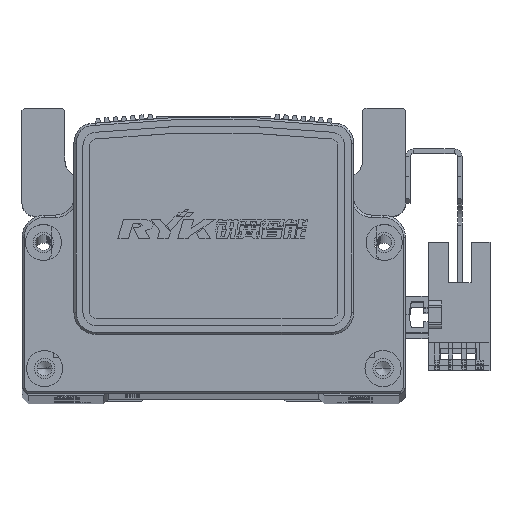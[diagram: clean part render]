
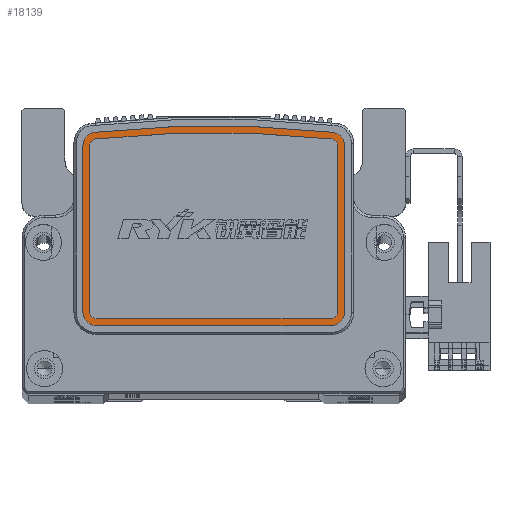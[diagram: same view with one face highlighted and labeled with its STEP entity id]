
A CAD part, top view. The second image highlights one B-rep face of the part: STEP entity #18139.
In plain terms, the highlighted planar face has unit normal (0, 0, 1) as drawn and (1, 0, 0) by its records, which use the part's own axes.
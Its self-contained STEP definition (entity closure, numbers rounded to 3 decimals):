
#6820 = VERTEX_POINT ( 'NONE', #35125 ) ;
#6830 = VERTEX_POINT ( 'NONE', #39582 ) ;
#6857 = VERTEX_POINT ( 'NONE', #28242 ) ;
#6872 = VERTEX_POINT ( 'NONE', #28308 ) ;
#6880 = VERTEX_POINT ( 'NONE', #28374 ) ;
#6882 = VERTEX_POINT ( 'NONE', #28388 ) ;
#6899 = VERTEX_POINT ( 'NONE', #28401 ) ;
#6924 = VERTEX_POINT ( 'NONE', #28536 ) ;
#6926 = VERTEX_POINT ( 'NONE', #28506 ) ;
#6943 = VERTEX_POINT ( 'NONE', #28542 ) ;
#6949 = DIRECTION ( 'NONE',  ( 0., 0., -1. ) ) ;
#6973 = VERTEX_POINT ( 'NONE', #27852 ) ;
#6986 = VERTEX_POINT ( 'NONE', #27855 ) ;
#6991 = PLANE ( 'NONE',  #34843 ) ;
#7004 = VERTEX_POINT ( 'NONE', #27847 ) ;
#7006 = VERTEX_POINT ( 'NONE', #27841 ) ;
#7027 = VERTEX_POINT ( 'NONE', #27731 ) ;
#7032 = CARTESIAN_POINT ( 'NONE',  ( 9., 19.871, 26. ) ) ;
#7050 = DIRECTION ( 'NONE',  ( 1., 0., 0. ) ) ;
#7168 = VERTEX_POINT ( 'NONE', #27781 ) ;
#10312 = EDGE_CURVE ( 'NONE', #6857, #6943, #43972, .T. ) ;
#10313 = EDGE_CURVE ( 'NONE', #6830, #6857, #43867, .T. ) ;
#10314 = EDGE_CURVE ( 'NONE', #6882, #6880, #43879, .T. ) ;
#10339 = EDGE_CURVE ( 'NONE', #6943, #6882, #43976, .T. ) ;
#10351 = EDGE_CURVE ( 'NONE', #6926, #6830, #44038, .T. ) ;
#10357 = EDGE_CURVE ( 'NONE', #6872, #6926, #44008, .T. ) ;
#10388 = EDGE_CURVE ( 'NONE', #6880, #6820, #41876, .T. ) ;
#10390 = EDGE_CURVE ( 'NONE', #6820, #6872, #41814, .T. ) ;
#10435 = EDGE_CURVE ( 'NONE', #7168, #6924, #43541, .T. ) ;
#10456 = EDGE_CURVE ( 'NONE', #7004, #7027, #33288, .T. ) ;
#10473 = EDGE_CURVE ( 'NONE', #7027, #6899, #33296, .T. ) ;
#10491 = EDGE_CURVE ( 'NONE', #6973, #7004, #33396, .T. ) ;
#10492 = EDGE_CURVE ( 'NONE', #6899, #7168, #33390, .T. ) ;
#10528 = EDGE_CURVE ( 'NONE', #7006, #6973, #33418, .T. ) ;
#10550 = EDGE_CURVE ( 'NONE', #6986, #7006, #33434, .T. ) ;
#10553 = EDGE_CURVE ( 'NONE', #6924, #6986, #33435, .T. ) ;
#18139 = ADVANCED_FACE ( 'NONE', ( #34257, #34282 ), #6991, .T. ) ;
#27731 = CARTESIAN_POINT ( 'NONE',  ( 9., 19.871, -29. ) ) ;
#27781 = CARTESIAN_POINT ( 'NONE',  ( 9., 22.854, 26.321 ) ) ;
#27841 = CARTESIAN_POINT ( 'NONE',  ( 9., -20., 26. ) ) ;
#27847 = CARTESIAN_POINT ( 'NONE',  ( 9., -17., -29. ) ) ;
#27852 = CARTESIAN_POINT ( 'NONE',  ( 9., -20., -26. ) ) ;
#27855 = CARTESIAN_POINT ( 'NONE',  ( 9., -17., 29. ) ) ;
#28242 = CARTESIAN_POINT ( 'NONE',  ( 9., 19.871, -27.5 ) ) ;
#28308 = CARTESIAN_POINT ( 'NONE',  ( 9., -18.5, 26. ) ) ;
#28374 = CARTESIAN_POINT ( 'NONE',  ( 9., 19.871, 27.5 ) ) ;
#28388 = CARTESIAN_POINT ( 'NONE',  ( 9., 21.363, 26.16 ) ) ;
#28401 = CARTESIAN_POINT ( 'NONE',  ( 9., 22.854, -26.321 ) ) ;
#28506 = CARTESIAN_POINT ( 'NONE',  ( 9., -18.5, -26. ) ) ;
#28536 = CARTESIAN_POINT ( 'NONE',  ( 9., 19.871, 29. ) ) ;
#28542 = CARTESIAN_POINT ( 'NONE',  ( 9., 21.363, -26.16 ) ) ;
#29804 = DIRECTION ( 'NONE',  ( 1., 0., 0. ) ) ;
#29809 = CARTESIAN_POINT ( 'NONE',  ( 9., 19.871, -26. ) ) ;
#29810 = DIRECTION ( 'NONE',  ( 0., 0., 1. ) ) ;
#29815 = CARTESIAN_POINT ( 'NONE',  ( 9., 19.871, 26. ) ) ;
#29820 = DIRECTION ( 'NONE',  ( 0., 1., 0. ) ) ;
#29831 = DIRECTION ( 'NONE',  ( 0., 0., 1. ) ) ;
#29835 = DIRECTION ( 'NONE',  ( 1., 0., 0. ) ) ;
#29837 = CARTESIAN_POINT ( 'NONE',  ( 9., 19.871, -27.5 ) ) ;
#29855 = CARTESIAN_POINT ( 'NONE',  ( 9., -222.049, 0. ) ) ;
#29869 = DIRECTION ( 'NONE',  ( 0., 0., 1. ) ) ;
#29878 = DIRECTION ( 'NONE',  ( 1., 0., 0. ) ) ;
#29881 = DIRECTION ( 'NONE',  ( 1., 0., 0. ) ) ;
#29882 = DIRECTION ( 'NONE',  ( 0., 0., 1. ) ) ;
#29894 = CARTESIAN_POINT ( 'NONE',  ( 9., -18.5, 26. ) ) ;
#29897 = CARTESIAN_POINT ( 'NONE',  ( 9., -17., -26. ) ) ;
#29900 = DIRECTION ( 'NONE',  ( 0., 0., -1. ) ) ;
#29995 = CARTESIAN_POINT ( 'NONE',  ( 9., 19.871, 27.5 ) ) ;
#29998 = DIRECTION ( 'NONE',  ( 0., -1., 0. ) ) ;
#30016 = CARTESIAN_POINT ( 'NONE',  ( 9., -17., 26. ) ) ;
#30018 = DIRECTION ( 'NONE',  ( 1., 0., 0. ) ) ;
#30034 = DIRECTION ( 'NONE',  ( 0., 0., 1. ) ) ;
#33288 = LINE ( 'NONE', #35846, #33291 ) ;
#33291 = VECTOR ( 'NONE', #35808, 1000. ) ;
#33296 = CIRCLE ( 'NONE', #34571, 3. ) ;
#33390 = CIRCLE ( 'NONE', #34540, 246.313 ) ;
#33396 = CIRCLE ( 'NONE', #34566, 3. ) ;
#33408 = VECTOR ( 'NONE', #36381, 1000. ) ;
#33418 = LINE ( 'NONE', #36341, #33442 ) ;
#33434 = CIRCLE ( 'NONE', #34564, 3. ) ;
#33435 = LINE ( 'NONE', #36387, #33408 ) ;
#33442 = VECTOR ( 'NONE', #36343, 1000. ) ;
#34257 = FACE_BOUND ( 'NONE', #45575, .T. ) ;
#34282 = FACE_OUTER_BOUND ( 'NONE', #45602, .T. ) ;
#34497 = AXIS2_PLACEMENT_3D ( 'NONE', #29809, #29804, #29831 ) ;
#34498 = AXIS2_PLACEMENT_3D ( 'NONE', #29897, #29881, #29882 ) ;
#34513 = AXIS2_PLACEMENT_3D ( 'NONE', #29815, #29835, #29810 ) ;
#34524 = AXIS2_PLACEMENT_3D ( 'NONE', #30016, #30018, #30034 ) ;
#34526 = AXIS2_PLACEMENT_3D ( 'NONE', #29855, #29878, #29869 ) ;
#34528 = AXIS2_PLACEMENT_3D ( 'NONE', #35613, #35624, #35645 ) ;
#34540 = AXIS2_PLACEMENT_3D ( 'NONE', #36091, #36103, #36093 ) ;
#34564 = AXIS2_PLACEMENT_3D ( 'NONE', #36461, #36383, #36427 ) ;
#34566 = AXIS2_PLACEMENT_3D ( 'NONE', #36170, #36076, #36126 ) ;
#34571 = AXIS2_PLACEMENT_3D ( 'NONE', #35933, #35890, #35886 ) ;
#34843 = AXIS2_PLACEMENT_3D ( 'NONE', #7032, #7050, #6949 ) ;
#35125 = CARTESIAN_POINT ( 'NONE',  ( 9., -17., 27.5 ) ) ;
#35613 = CARTESIAN_POINT ( 'NONE',  ( 9., 19.871, 26. ) ) ;
#35624 = DIRECTION ( 'NONE',  ( 1., 0., 0. ) ) ;
#35645 = DIRECTION ( 'NONE',  ( 0., 0., 1. ) ) ;
#35808 = DIRECTION ( 'NONE',  ( 0., 1., 0. ) ) ;
#35846 = CARTESIAN_POINT ( 'NONE',  ( 9., -17., -29. ) ) ;
#35886 = DIRECTION ( 'NONE',  ( 0., 0., -1. ) ) ;
#35890 = DIRECTION ( 'NONE',  ( 1., 0., 0. ) ) ;
#35933 = CARTESIAN_POINT ( 'NONE',  ( 9., 19.871, -26. ) ) ;
#36076 = DIRECTION ( 'NONE',  ( 1., 0., 0. ) ) ;
#36091 = CARTESIAN_POINT ( 'NONE',  ( 9., -222.049, 0. ) ) ;
#36093 = DIRECTION ( 'NONE',  ( 0., 0., -1. ) ) ;
#36103 = DIRECTION ( 'NONE',  ( 1., 0., 0. ) ) ;
#36126 = DIRECTION ( 'NONE',  ( 0., 0., -1. ) ) ;
#36170 = CARTESIAN_POINT ( 'NONE',  ( 9., -17., -26. ) ) ;
#36341 = CARTESIAN_POINT ( 'NONE',  ( 9., -20., 26. ) ) ;
#36343 = DIRECTION ( 'NONE',  ( 0., 0., -1. ) ) ;
#36381 = DIRECTION ( 'NONE',  ( 0., -1., 0. ) ) ;
#36383 = DIRECTION ( 'NONE',  ( 1., 0., 0. ) ) ;
#36387 = CARTESIAN_POINT ( 'NONE',  ( 9., 19.871, 29. ) ) ;
#36427 = DIRECTION ( 'NONE',  ( 0., 0., -1. ) ) ;
#36461 = CARTESIAN_POINT ( 'NONE',  ( 9., -17., 26. ) ) ;
#39582 = CARTESIAN_POINT ( 'NONE',  ( 9., -17., -27.5 ) ) ;
#41814 = CIRCLE ( 'NONE', #34524, 1.5 ) ;
#41872 = VECTOR ( 'NONE', #29998, 1000. ) ;
#41876 = LINE ( 'NONE', #29995, #41872 ) ;
#43541 = CIRCLE ( 'NONE', #34528, 3. ) ;
#43867 = LINE ( 'NONE', #29837, #43875 ) ;
#43875 = VECTOR ( 'NONE', #29820, 1000. ) ;
#43879 = CIRCLE ( 'NONE', #34513, 1.5 ) ;
#43972 = CIRCLE ( 'NONE', #34497, 1.5 ) ;
#43976 = CIRCLE ( 'NONE', #34526, 244.813 ) ;
#44008 = LINE ( 'NONE', #29894, #44042 ) ;
#44038 = CIRCLE ( 'NONE', #34498, 1.5 ) ;
#44042 = VECTOR ( 'NONE', #29900, 1000. ) ;
#45575 = EDGE_LOOP ( 'NONE', ( #69282, #69256, #69304, #69310, #69255, #69307, #69177, #69156 ) ) ;
#45602 = EDGE_LOOP ( 'NONE', ( #69182, #69161, #69130, #69181, #69167, #69166, #69188, #69146 ) ) ;
#69130 = ORIENTED_EDGE ( 'NONE', *, *, #10550, .T. ) ;
#69146 = ORIENTED_EDGE ( 'NONE', *, *, #10492, .T. ) ;
#69156 = ORIENTED_EDGE ( 'NONE', *, *, #10314, .F. ) ;
#69161 = ORIENTED_EDGE ( 'NONE', *, *, #10553, .T. ) ;
#69166 = ORIENTED_EDGE ( 'NONE', *, *, #10456, .T. ) ;
#69167 = ORIENTED_EDGE ( 'NONE', *, *, #10491, .T. ) ;
#69177 = ORIENTED_EDGE ( 'NONE', *, *, #10388, .F. ) ;
#69181 = ORIENTED_EDGE ( 'NONE', *, *, #10528, .T. ) ;
#69182 = ORIENTED_EDGE ( 'NONE', *, *, #10435, .T. ) ;
#69188 = ORIENTED_EDGE ( 'NONE', *, *, #10473, .T. ) ;
#69255 = ORIENTED_EDGE ( 'NONE', *, *, #10357, .F. ) ;
#69256 = ORIENTED_EDGE ( 'NONE', *, *, #10312, .F. ) ;
#69282 = ORIENTED_EDGE ( 'NONE', *, *, #10339, .F. ) ;
#69304 = ORIENTED_EDGE ( 'NONE', *, *, #10313, .F. ) ;
#69307 = ORIENTED_EDGE ( 'NONE', *, *, #10390, .F. ) ;
#69310 = ORIENTED_EDGE ( 'NONE', *, *, #10351, .F. ) ;
